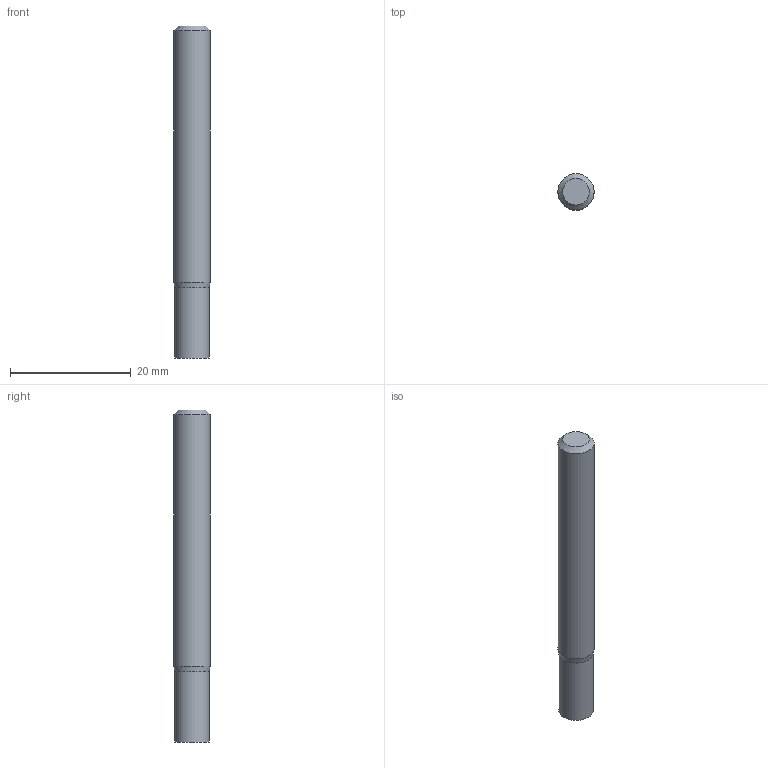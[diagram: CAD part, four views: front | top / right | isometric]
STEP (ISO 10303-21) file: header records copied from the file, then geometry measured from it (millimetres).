
FILE_DESCRIPTION((''),'2;1');
FILE_NAME('C:\Users\nsx150\AppData\Local\Temp\Mastercam 2021\98T1Q6BTT1\TEMP.step','2021-10-21T14:48:57',(''),(''),'STEP Write','Mastercam 2021 ... CNC Software, Inc.','');
FILE_SCHEMA(('AUTOMOTIVE_DESIGN'));
Length unit declared in the file: millimetre
Products named in the file (1): None
Bounding box: 6 x 6 x 55 mm (x, y, z)
Volume: 1516.3 mm3; surface area: 1120.7 mm2
Topology: 2 solids, 2 shells, 8 faces, 10 edges, 6 vertices
Faces by surface type: plane 4, cylinder 2, cone 2
Full cylindrical faces by diameter (mm): 5.7 x1, 6 x1
Entity records: 190 total; most frequent: DIRECTION 32, CARTESIAN_POINT 22, AXIS2_PLACEMENT_3D 16, ORIENTED_EDGE 12, EDGE_LOOP 12, STYLED_ITEM 11, ADVANCED_FACE 8, VERTEX_POINT 6
